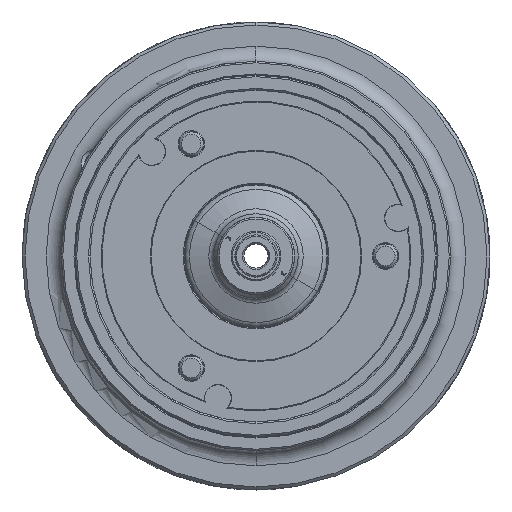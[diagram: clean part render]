
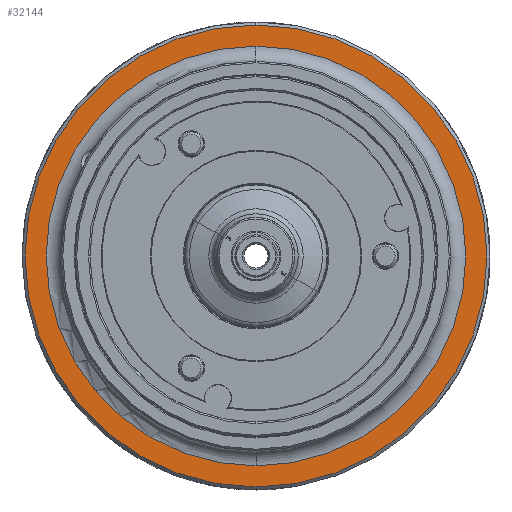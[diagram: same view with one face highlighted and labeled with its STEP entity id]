
A CAD part, left-side view. The second image highlights one B-rep face of the part: STEP entity #32144.
In plain terms, the highlighted planar face has unit normal (-1, 0, 0).
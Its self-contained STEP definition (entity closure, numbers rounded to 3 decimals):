
#281 = CARTESIAN_POINT ( 'NONE',  ( -29.5, 0., -139. ) ) ;
#801 = EDGE_CURVE ( 'NONE', #38378, #1125, #79061, .T. ) ;
#1125 = VERTEX_POINT ( 'NONE', #2969 ) ;
#2969 = CARTESIAN_POINT ( 'NONE',  ( -29.5, 0., 153. ) ) ;
#8267 = CARTESIAN_POINT ( 'NONE',  ( -29.5, 0., 0. ) ) ;
#13195 = CARTESIAN_POINT ( 'NONE',  ( -29.5, 0., 0. ) ) ;
#13925 = EDGE_CURVE ( 'NONE', #65006, #46429, #52431, .T. ) ;
#17787 = AXIS2_PLACEMENT_3D ( 'NONE', #80473, #25782, #89664 ) ;
#21090 = ORIENTED_EDGE ( 'NONE', *, *, #57812, .T. ) ;
#22387 = DIRECTION ( 'NONE',  ( 0., 0., -1. ) ) ;
#25364 = AXIS2_PLACEMENT_3D ( 'NONE', #102048, #47405, #111227 ) ;
#25782 = DIRECTION ( 'NONE',  ( 1., 0., 0. ) ) ;
#32144 = ADVANCED_FACE ( 'NONE', ( #57472, #36032 ), #90348, .F. ) ;
#36032 = FACE_BOUND ( 'NONE', #55084, .T. ) ;
#38378 = VERTEX_POINT ( 'NONE', #90290 ) ;
#38617 = EDGE_LOOP ( 'NONE', ( #92402, #114904 ) ) ;
#39899 = ORIENTED_EDGE ( 'NONE', *, *, #13925, .T. ) ;
#46429 = VERTEX_POINT ( 'NONE', #281 ) ;
#46512 = AXIS2_PLACEMENT_3D ( 'NONE', #13195, #77057, #22387 ) ;
#47405 = DIRECTION ( 'NONE',  ( 1., 0., 0. ) ) ;
#52431 = CIRCLE ( 'NONE', #25364, 139. ) ;
#54064 = DIRECTION ( 'NONE',  ( 1., 0., 0. ) ) ;
#55084 = EDGE_LOOP ( 'NONE', ( #21090, #39899 ) ) ;
#55806 = CIRCLE ( 'NONE', #46512, 139. ) ;
#57472 = FACE_OUTER_BOUND ( 'NONE', #38617, .T. ) ;
#57812 = EDGE_CURVE ( 'NONE', #46429, #65006, #55806, .T. ) ;
#60860 = DIRECTION ( 'NONE',  ( 1., 0., 0. ) ) ;
#62733 = CIRCLE ( 'NONE', #17787, 153. ) ;
#65006 = VERTEX_POINT ( 'NONE', #67002 ) ;
#66797 = AXIS2_PLACEMENT_3D ( 'NONE', #108688, #54064, #117878 ) ;
#67002 = CARTESIAN_POINT ( 'NONE',  ( -29.5, 0., 139. ) ) ;
#77057 = DIRECTION ( 'NONE',  ( 1., 0., 0. ) ) ;
#79061 = CIRCLE ( 'NONE', #114203, 153. ) ;
#80473 = CARTESIAN_POINT ( 'NONE',  ( -29.5, 0., 0. ) ) ;
#81119 = EDGE_CURVE ( 'NONE', #1125, #38378, #62733, .T. ) ;
#89664 = DIRECTION ( 'NONE',  ( 0., 0., -1. ) ) ;
#90290 = CARTESIAN_POINT ( 'NONE',  ( -29.5, 0., -153. ) ) ;
#90348 = PLANE ( 'NONE',  #66797 ) ;
#92402 = ORIENTED_EDGE ( 'NONE', *, *, #801, .F. ) ;
#102048 = CARTESIAN_POINT ( 'NONE',  ( -29.5, 0., 0. ) ) ;
#105867 = DIRECTION ( 'NONE',  ( 0., 0., -1. ) ) ;
#108688 = CARTESIAN_POINT ( 'NONE',  ( -29.5, -139., 0. ) ) ;
#111227 = DIRECTION ( 'NONE',  ( 0., 0., -1. ) ) ;
#114203 = AXIS2_PLACEMENT_3D ( 'NONE', #8267, #60860, #105867 ) ;
#114904 = ORIENTED_EDGE ( 'NONE', *, *, #81119, .F. ) ;
#117878 = DIRECTION ( 'NONE',  ( 0., 0., -1. ) ) ;
